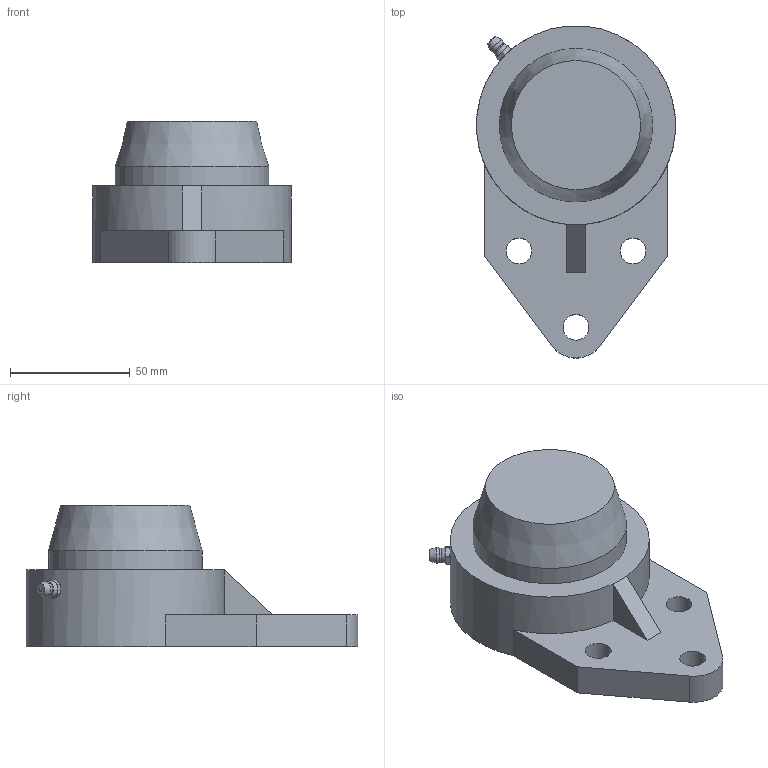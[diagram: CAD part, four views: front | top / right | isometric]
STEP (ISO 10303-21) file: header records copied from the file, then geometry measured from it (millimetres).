
FILE_DESCRIPTION(/* description */ (''),/* implementation_level */ '2;1');
FILE_NAME(/* name */ 'C:\Users\UGijyutu_200702\Desktop\77.プラスチックハウジング\MBFBL200V\MBFBL200VE\MBFBL206VE.stp',/* time_stamp */ '2023-05-08T16:21:10+09:00',/* author */ ('UGijyutu_200702'),/* organization */ (''),/* preprocessor_version */ 'ST-DEVELOPER v18',/* originating_system */ 'Autodesk Inventor 2020',/* authorisation */ '');
FILE_SCHEMA (('AUTOMOTIVE_DESIGN { 1 0 10303 214 3 1 1 }'));
Length unit declared in the file: millimetre
Products named in the file (5): MBFBL206VE; FBL206; MB6 V; 1/4-28UNF-2A; 206E
Assembly tree (4 placements, depth 2):
  MBFBL206VE
    FBL206
    MB6 V
    1/4-28UNF-2A
    206E
Bounding box: 82.81 x 138.3 x 58.9 mm (x, y, z)
Volume: 173473.8 mm3; surface area: 57509 mm2
Topology: 4 solids, 4 shells, 91 faces, 222 edges, 152 vertices
Faces by surface type: plane 47, cylinder 21, cone 17, sphere 4, torus 2
Full cylindrical faces by diameter (mm): 3.2 x1, 4.978 x1, 5 x2, 6.35 x1, 10.7 x3, 30 x1, 40.5 x1, 60 x1, 63.8 x2, 64 x1, 72 x1
Entity records: 3161 total; most frequent: CARTESIAN_POINT 728, DIRECTION 480, ORIENTED_EDGE 442, EDGE_CURVE 221, AXIS2_PLACEMENT_3D 197, VERTEX_POINT 152, EDGE_LOOP 117, CIRCLE 97
